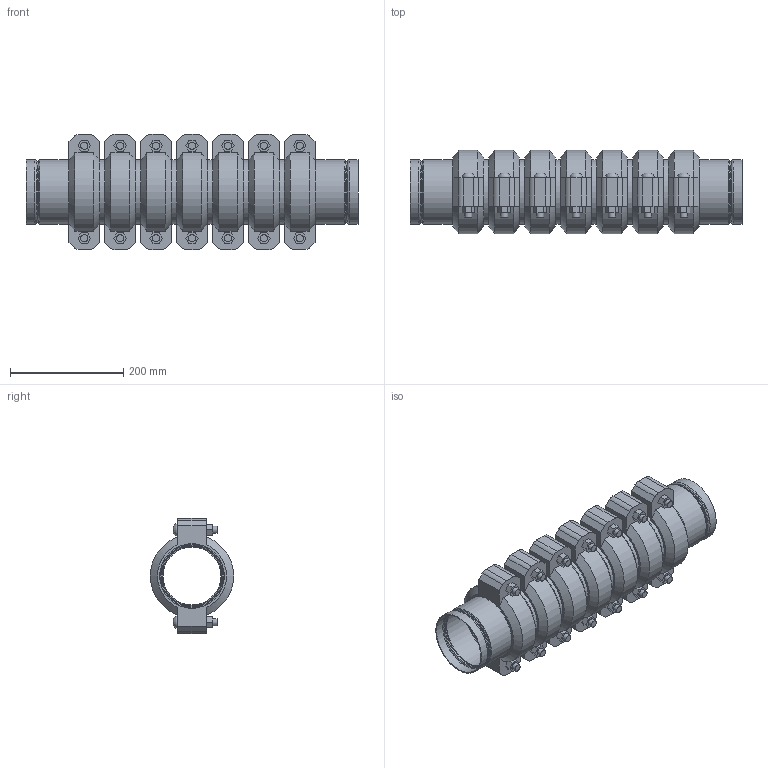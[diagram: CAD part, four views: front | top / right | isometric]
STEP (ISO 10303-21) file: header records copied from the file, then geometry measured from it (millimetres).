
FILE_DESCRIPTION(/* description */ ('VIC STRENGTHIN 100 EXPANSION JOINT 7 COUPLINGS NEUTRAL STYLE E155 (ST1)','CAx-IF Rec.Pracs.---Representation and Presentation of Product Manufacturing Information (PMI)---4.0---2014-10-13'),/* implementation_level */ '2;1');
FILE_NAME(/* name */ 'C:\Users\Vjadhav\AppData\Roaming\Autodesk\ApplicationPlugins\Victaulic.Temp\A857\Victaulic_SS-StrengThin 100_Expansion Joint_Neutral_7 Couplings_Style E155 (ST1)_7 Coup_Neut_4 (100).stp',/* time_stamp */ '2021-07-20T17:49:53+05:00',/* author */ ('kkamble'),/* organization */ ('Victaulic'),/* preprocessor_version */ 'ST-DEVELOPER v17.2',/* originating_system */ 'Autodesk Inventor 2019',/* authorisation */ '');
FILE_SCHEMA (('AP242_MANAGED_MODEL_BASED_3D_ENGINEERING_MIM_LF { 1 0 10303 442 1 1 4 }'));
Length unit declared in the file: inch
Products named in the file (4): E155-04.0; E494G-04.0; Nipple-04.0; 075-04.0
Assembly tree (15 placements, depth 2):
  E155-04.0
    E494G-04.0  x2
    Nipple-04.0  x6
    075-04.0  x7
Bounding box: 587.5 x 147.32 x 203.96 mm (x, y, z)
Volume: 4157465.3 mm3; surface area: 986396.1 mm2
Topology: 15 solids, 29 shells, 539 faces, 1333 edges, 940 vertices
Faces by surface type: plane 300, cylinder 161, torus 32, cone 32, bspline 14
Full cylindrical faces by diameter (mm): 12.7 x28, 14.605 x14, 102.26 x6, 105.639 x2, 106.883 x2, 107.95 x7, 108.839 x2, 110.084 x14, 111.1 x6, 114.3 x38
Entity records: 3782 total; most frequent: DIRECTION 673, CARTESIAN_POINT 661, ORIENTED_EDGE 548, AXIS2_PLACEMENT_3D 287, EDGE_CURVE 274, VERTEX_POINT 197, CIRCLE 167, EDGE_LOOP 129
